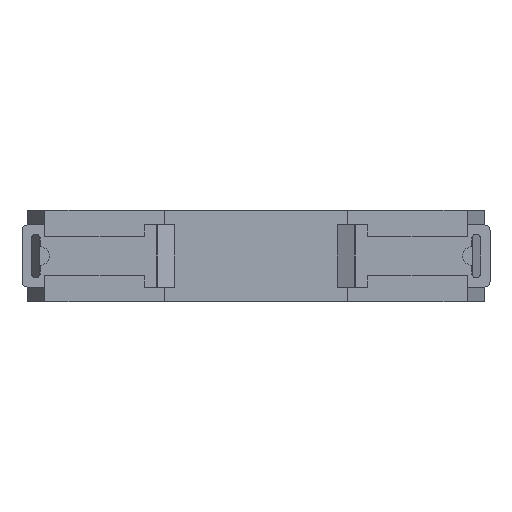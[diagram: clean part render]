
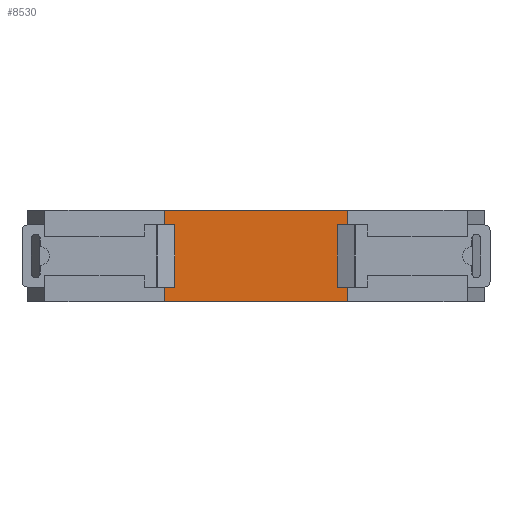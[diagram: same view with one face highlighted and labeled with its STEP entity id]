
A CAD part, left-side view. The second image highlights one B-rep face of the part: STEP entity #8530.
In plain terms, the highlighted planar face has unit normal (-1, 0, 0).
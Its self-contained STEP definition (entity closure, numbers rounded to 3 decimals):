
#468 = LINE ( 'NONE', #10625, #5885 ) ;
#555 = VERTEX_POINT ( 'NONE', #5249 ) ;
#1108 = CARTESIAN_POINT ( 'NONE',  ( -60., -40.25, 18. ) ) ;
#1113 = AXIS2_PLACEMENT_3D ( 'NONE', #4308, #6071, #3545 ) ;
#1456 = ORIENTED_EDGE ( 'NONE', *, *, #4772, .T. ) ;
#1555 = CARTESIAN_POINT ( 'NONE',  ( -60., -4.25, 0. ) ) ;
#1804 = VERTEX_POINT ( 'NONE', #8903 ) ;
#2205 = CARTESIAN_POINT ( 'NONE',  ( -60., -4.25, 18. ) ) ;
#3115 = VERTEX_POINT ( 'NONE', #10409 ) ;
#3366 = EDGE_CURVE ( 'NONE', #3115, #1804, #9008, .T. ) ;
#3495 = FACE_OUTER_BOUND ( 'NONE', #8635, .T. ) ;
#3545 = DIRECTION ( 'NONE',  ( 0., 1., 0. ) ) ;
#3938 = EDGE_CURVE ( 'NONE', #7174, #1804, #468, .T. ) ;
#3990 = EDGE_CURVE ( 'NONE', #555, #7174, #7697, .T. ) ;
#4308 = CARTESIAN_POINT ( 'NONE',  ( -60., -4.25, 18. ) ) ;
#4413 = ORIENTED_EDGE ( 'NONE', *, *, #3990, .F. ) ;
#4772 = EDGE_CURVE ( 'NONE', #555, #3115, #5468, .T. ) ;
#5249 = CARTESIAN_POINT ( 'NONE',  ( -60., -4.25, 18. ) ) ;
#5468 = LINE ( 'NONE', #2205, #10544 ) ;
#5885 = VECTOR ( 'NONE', #8959, 1000. ) ;
#6071 = DIRECTION ( 'NONE',  ( 1., 0., 0. ) ) ;
#6275 = VECTOR ( 'NONE', #9033, 1000. ) ;
#6860 = PLANE ( 'NONE',  #1113 ) ;
#6934 = ORIENTED_EDGE ( 'NONE', *, *, #3366, .T. ) ;
#7174 = VERTEX_POINT ( 'NONE', #1108 ) ;
#7300 = VECTOR ( 'NONE', #10555, 1000. ) ;
#7697 = LINE ( 'NONE', #8078, #7300 ) ;
#7979 = DIRECTION ( 'NONE',  ( 0., 0., -1. ) ) ;
#8078 = CARTESIAN_POINT ( 'NONE',  ( -60., -4.25, 18. ) ) ;
#8530 = ADVANCED_FACE ( 'NONE', ( #3495 ), #6860, .F. ) ;
#8635 = EDGE_LOOP ( 'NONE', ( #6934, #8713, #4413, #1456 ) ) ;
#8713 = ORIENTED_EDGE ( 'NONE', *, *, #3938, .F. ) ;
#8903 = CARTESIAN_POINT ( 'NONE',  ( -60., -40.25, 0. ) ) ;
#8959 = DIRECTION ( 'NONE',  ( 0., 0., -1. ) ) ;
#9008 = LINE ( 'NONE', #1555, #6275 ) ;
#9033 = DIRECTION ( 'NONE',  ( 0., -1., 0. ) ) ;
#10409 = CARTESIAN_POINT ( 'NONE',  ( -60., -4.25, 0. ) ) ;
#10544 = VECTOR ( 'NONE', #7979, 1000. ) ;
#10555 = DIRECTION ( 'NONE',  ( 0., -1., 0. ) ) ;
#10625 = CARTESIAN_POINT ( 'NONE',  ( -60., -40.25, 18. ) ) ;
